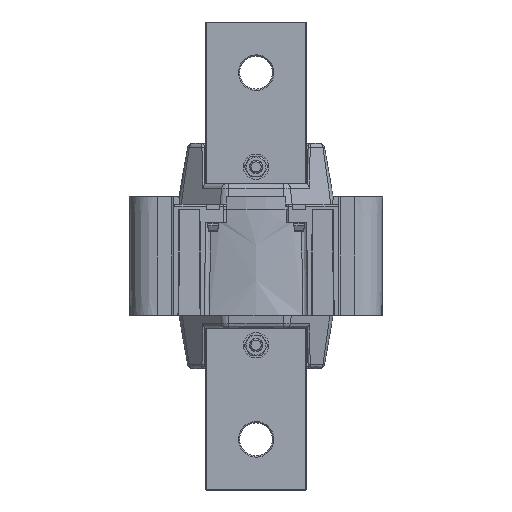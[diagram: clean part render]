
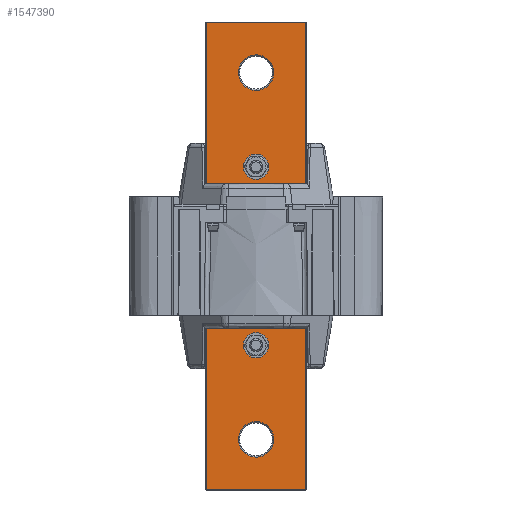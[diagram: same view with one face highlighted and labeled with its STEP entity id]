
A CAD part, front view. The second image highlights one B-rep face of the part: STEP entity #1547390.
In plain terms, the highlighted planar face has unit normal (0, -1, 0).
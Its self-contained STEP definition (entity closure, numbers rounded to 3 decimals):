
#1546200=CARTESIAN_POINT('',(-6.628,-0.69,88.15)
);
#1546210=VERTEX_POINT('',#1546200);
#1546290=CARTESIAN_POINT('',(7.372,-0.69,88.15))
;
#1546300=VERTEX_POINT('',#1546290);
#1546330=CARTESIAN_POINT('',(0.372,-0.69,88.15)
);
#1546340=DIRECTION('',(0.,-1.,0.));
#1546350=DIRECTION('',(1.,0.,0.));
#1546360=AXIS2_PLACEMENT_3D('',#1546330,#1546340,#1546350);
#1546370=CIRCLE('',#1546360,7.);
#1546380=EDGE_CURVE('',#1546210,#1546300,#1546370,.T.);
#1546500=CARTESIAN_POINT('',(-8.714,-0.69,
-20.828));
#1546510=DIRECTION('',(0.,-1.,0.));
#1546520=DIRECTION('',(1.,0.,0.));
#1546530=AXIS2_PLACEMENT_3D('',#1546500,#1546510,#1546520);
#1546540=PLANE('',#1546530);
#1546550=CARTESIAN_POINT('',(20.072,-0.69,
-20.828));
#1546560=DIRECTION('',(0.,0.,-1.));
#1546570=VECTOR('',#1546560,1.);
#1546580=LINE('',#1546550,#1546570);
#1546590=CARTESIAN_POINT('',(20.072,-0.69,107.85)
);
#1546600=VERTEX_POINT('',#1546590);
#1546610=CARTESIAN_POINT('',(20.072,-0.69,-76.55)
);
#1546620=VERTEX_POINT('',#1546610);
#1546630=EDGE_CURVE('',#1546600,#1546620,#1546580,.T.);
#1546640=ORIENTED_EDGE('',*,*,#1546630,.F.);
#1546650=CARTESIAN_POINT('',(-8.714,-0.69,-76.55)
);
#1546660=DIRECTION('',(1.,0.,0.));
#1546670=VECTOR('',#1546660,1.);
#1546680=LINE('',#1546650,#1546670);
#1546690=CARTESIAN_POINT('',(-19.328,-0.69,
-76.55));
#1546700=VERTEX_POINT('',#1546690);
#1546710=EDGE_CURVE('',#1546700,#1546620,#1546680,.T.);
#1546720=ORIENTED_EDGE('',*,*,#1546710,.T.);
#1546730=CARTESIAN_POINT('',(-19.328,-0.69,
-20.828));
#1546740=DIRECTION('',(0.,0.,-1.));
#1546750=VECTOR('',#1546740,1.);
#1546760=LINE('',#1546730,#1546750);
#1546770=CARTESIAN_POINT('',(-19.328,-0.69,107.85));
#1546780=VERTEX_POINT('',#1546770);
#1546790=EDGE_CURVE('',#1546780,#1546700,#1546760,.T.);
#1546800=ORIENTED_EDGE('',*,*,#1546790,.T.);
#1546810=CARTESIAN_POINT('',(-8.714,-0.69,107.85)
);
#1546820=DIRECTION('',(1.,0.,0.));
#1546830=VECTOR('',#1546820,1.);
#1546840=LINE('',#1546810,#1546830);
#1546850=EDGE_CURVE('',#1546780,#1546600,#1546840,.T.);
#1546860=ORIENTED_EDGE('',*,*,#1546850,.F.);
#1546870=EDGE_LOOP('',(#1546860,#1546800,#1546720,#1546640));
#1546880=FACE_OUTER_BOUND('',#1546870,.T.);
#1546890=CARTESIAN_POINT('',(0.372,-0.69,50.9))
;
#1546900=DIRECTION('',(0.,1.,0.));
#1546910=DIRECTION('',(1.,0.,0.));
#1546920=AXIS2_PLACEMENT_3D('',#1546890,#1546900,#1546910);
#1546930=CIRCLE('',#1546920,5.);
#1546940=CARTESIAN_POINT('',(5.372,-0.69,50.9));
#1546950=VERTEX_POINT('',#1546940);
#1546960=CARTESIAN_POINT('',(-4.628,-0.69,50.9))
;
#1546970=VERTEX_POINT('',#1546960);
#1546980=EDGE_CURVE('',#1546950,#1546970,#1546930,.T.);
#1546990=ORIENTED_EDGE('',*,*,#1546980,.T.);
#1547000=EDGE_CURVE('',#1546970,#1546950,#1546930,.T.);
#1547010=ORIENTED_EDGE('',*,*,#1547000,.T.);
#1547020=EDGE_LOOP('',(#1547010,#1546990));
#1547030=FACE_BOUND('',#1547020,.T.);
#1547040=CARTESIAN_POINT('',(0.372,-0.69,-19.6)
);
#1547050=DIRECTION('',(0.,1.,0.));
#1547060=DIRECTION('',(1.,0.,0.));
#1547070=AXIS2_PLACEMENT_3D('',#1547040,#1547050,#1547060);
#1547080=CIRCLE('',#1547070,5.);
#1547090=CARTESIAN_POINT('',(5.372,-0.69,-19.6))
;
#1547100=VERTEX_POINT('',#1547090);
#1547110=CARTESIAN_POINT('',(-4.628,-0.69,-19.6)
);
#1547120=VERTEX_POINT('',#1547110);
#1547130=EDGE_CURVE('',#1547100,#1547120,#1547080,.T.);
#1547140=ORIENTED_EDGE('',*,*,#1547130,.T.);
#1547150=EDGE_CURVE('',#1547120,#1547100,#1547080,.T.);
#1547160=ORIENTED_EDGE('',*,*,#1547150,.T.);
#1547170=EDGE_LOOP('',(#1547160,#1547140));
#1547180=FACE_BOUND('',#1547170,.T.);
#1547190=EDGE_CURVE('',#1546300,#1546210,#1546370,.T.);
#1547200=ORIENTED_EDGE('',*,*,#1547190,.F.);
#1547210=ORIENTED_EDGE('',*,*,#1546380,.F.);
#1547220=EDGE_LOOP('',(#1547210,#1547200));
#1547230=FACE_BOUND('',#1547220,.T.);
#1547240=CARTESIAN_POINT('',(0.372,-0.69,-56.85
));
#1547250=DIRECTION('',(0.,-1.,0.));
#1547260=DIRECTION('',(1.,0.,0.));
#1547270=AXIS2_PLACEMENT_3D('',#1547240,#1547250,#1547260);
#1547280=CIRCLE('',#1547270,7.);
#1547290=CARTESIAN_POINT('',(7.372,-0.69,-56.85)
);
#1547300=VERTEX_POINT('',#1547290);
#1547310=CARTESIAN_POINT('',(-6.628,-0.69,-56.85
));
#1547320=VERTEX_POINT('',#1547310);
#1547330=EDGE_CURVE('',#1547300,#1547320,#1547280,.T.);
#1547340=ORIENTED_EDGE('',*,*,#1547330,.F.);
#1547350=EDGE_CURVE('',#1547320,#1547300,#1547280,.T.);
#1547360=ORIENTED_EDGE('',*,*,#1547350,.F.);
#1547370=EDGE_LOOP('',(#1547360,#1547340));
#1547380=FACE_BOUND('',#1547370,.T.);
#1547390=ADVANCED_FACE('',(#1546880,#1547030,#1547180,#1547230,#1547380)
,#1546540,.T.);
